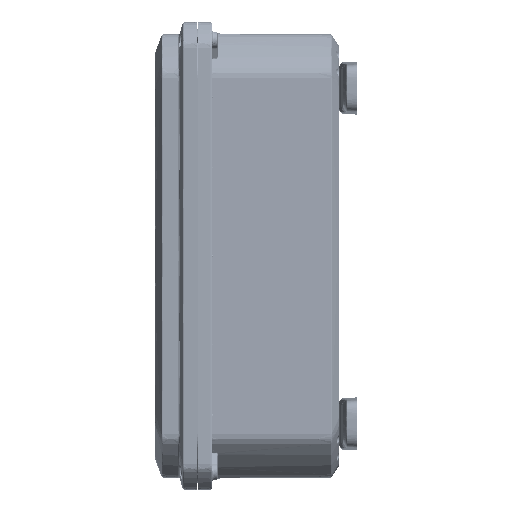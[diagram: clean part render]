
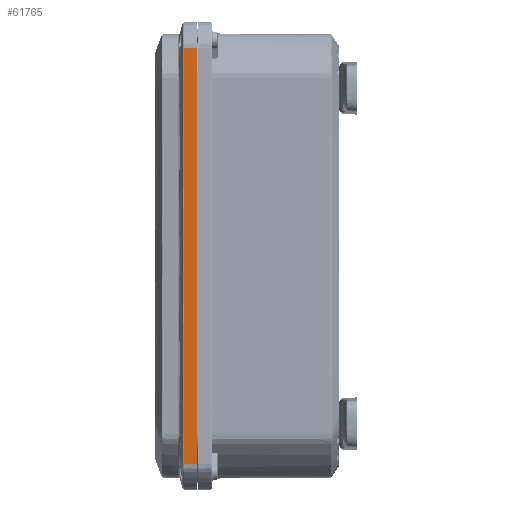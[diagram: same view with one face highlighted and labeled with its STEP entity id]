
A CAD part, left-side view. The second image highlights one B-rep face of the part: STEP entity #61765.
In plain terms, the highlighted planar face has unit normal (-0.999, 0.035, 0).
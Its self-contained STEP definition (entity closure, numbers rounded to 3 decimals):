
#1737 = DIRECTION ( 'NONE',  ( -0.035, -0.999, 0. ) ) ;
#7140 = LINE ( 'NONE', #79849, #176576 ) ;
#7347 = CARTESIAN_POINT ( 'NONE',  ( -7.607, 0.363, -5.829 ) ) ;
#7960 = VERTEX_POINT ( 'NONE', #240516 ) ;
#9487 = CARTESIAN_POINT ( 'NONE',  ( -7.607, 0.363, 5.875 ) ) ;
#13071 = VERTEX_POINT ( 'NONE', #98964 ) ;
#13111 = VERTEX_POINT ( 'NONE', #49965 ) ;
#15564 = PLANE ( 'NONE',  #87114 ) ;
#23934 = ORIENTED_EDGE ( 'NONE', *, *, #143241, .T. ) ;
#26132 = CARTESIAN_POINT ( 'NONE',  ( -7.607, 0.363, -5.031 ) ) ;
#28303 = CARTESIAN_POINT ( 'NONE',  ( -7.607, 0.363, 0.982 ) ) ;
#28741 = VERTEX_POINT ( 'NONE', #126057 ) ;
#40379 = B_SPLINE_CURVE_WITH_KNOTS ( 'NONE', 3,
 ( #161023, #9487, #215040, #218750, #42145, #118540, #85864, #47079, #162269, #102182, #199921, #28303, #60978 ),
 .UNSPECIFIED., .F., .F.,
 ( 4, 2, 1, 1, 1, 1, 1, 2, 4 ),
 ( 0., 0.001, 0.002, 0.005, 0.009, 0.019, 0.037, 0.075, 0.15 ),
 .UNSPECIFIED. ) ;
#40661 = CARTESIAN_POINT ( 'NONE',  ( -7.62, 0., -5.89 ) ) ;
#42145 = CARTESIAN_POINT ( 'NONE',  ( -7.607, 0.363, 5.783 ) ) ;
#43981 = ORIENTED_EDGE ( 'NONE', *, *, #47157, .F. ) ;
#44927 = CARTESIAN_POINT ( 'NONE',  ( -7.607, 0.363, -5.783 ) ) ;
#46162 = CARTESIAN_POINT ( 'NONE',  ( -7.607, 0.363, 0. ) ) ;
#47079 = CARTESIAN_POINT ( 'NONE',  ( -7.607, 0.363, 5.031 ) ) ;
#47157 = EDGE_CURVE ( 'NONE', #81160, #7960, #7140, .T. ) ;
#49965 = CARTESIAN_POINT ( 'NONE',  ( -7.62, 0., -5.89 ) ) ;
#60978 = CARTESIAN_POINT ( 'NONE',  ( -7.607, 0.363, 0. ) ) ;
#61765 = ADVANCED_FACE ( 'NONE', ( #208466 ), #15564, .T. ) ;
#71138 = LINE ( 'NONE', #241569, #224199 ) ;
#76883 = CARTESIAN_POINT ( 'NONE',  ( -7.62, 0., -5.89 ) ) ;
#77864 = ORIENTED_EDGE ( 'NONE', *, *, #216089, .T. ) ;
#79849 = CARTESIAN_POINT ( 'NONE',  ( -7.62, 0., 5.89 ) ) ;
#80281 = ORIENTED_EDGE ( 'NONE', *, *, #229143, .T. ) ;
#81160 = VERTEX_POINT ( 'NONE', #154258 ) ;
#83734 = CARTESIAN_POINT ( 'NONE',  ( -7.607, 0.363, -5.86 ) ) ;
#85864 = CARTESIAN_POINT ( 'NONE',  ( -7.607, 0.363, 5.461 ) ) ;
#87114 = AXIS2_PLACEMENT_3D ( 'NONE', #76883, #227276, #1737 ) ;
#98627 = DIRECTION ( 'NONE',  ( -0.035, -0.999, 0. ) ) ;
#98964 = CARTESIAN_POINT ( 'NONE',  ( -7.607, 0.363, 0. ) ) ;
#100723 = DIRECTION ( 'NONE',  ( -0.035, -0.999, 0. ) ) ;
#101272 = CARTESIAN_POINT ( 'NONE',  ( -7.607, 0.363, -1.963 ) ) ;
#102182 = CARTESIAN_POINT ( 'NONE',  ( -7.607, 0.363, 3.436 ) ) ;
#108638 = DIRECTION ( 'NONE',  ( 0., 0., 1. ) ) ;
#118540 = CARTESIAN_POINT ( 'NONE',  ( -7.607, 0.363, 5.676 ) ) ;
#121285 = CARTESIAN_POINT ( 'NONE',  ( -7.607, 0.363, -4.663 ) ) ;
#122520 = CARTESIAN_POINT ( 'NONE',  ( -7.607, 0.363, -3.436 ) ) ;
#126057 = CARTESIAN_POINT ( 'NONE',  ( -7.607, 0.363, -5.89 ) ) ;
#143241 = EDGE_CURVE ( 'NONE', #81160, #13071, #40379, .T. ) ;
#154258 = CARTESIAN_POINT ( 'NONE',  ( -7.607, 0.363, 5.89 ) ) ;
#155219 = B_SPLINE_CURVE_WITH_KNOTS ( 'NONE', 3,
 ( #46162, #158880, #101272, #122520, #235413, #121285, #26132, #177704, #216592, #44927, #7347, #83734, #198995, #160106 ),
 .UNSPECIFIED., .F., .F.,
 ( 4, 2, 2, 1, 1, 1, 1, 2, 4 ),
 ( 0., 0.075, 0.112, 0.131, 0.14, 0.145, 0.147, 0.148, 0.15 ),
 .UNSPECIFIED. ) ;
#158880 = CARTESIAN_POINT ( 'NONE',  ( -7.607, 0.363, -0.982 ) ) ;
#160106 = CARTESIAN_POINT ( 'NONE',  ( -7.607, 0.363, -5.89 ) ) ;
#161023 = CARTESIAN_POINT ( 'NONE',  ( -7.607, 0.363, 5.89 ) ) ;
#162269 = CARTESIAN_POINT ( 'NONE',  ( -7.607, 0.363, 4.172 ) ) ;
#172290 = VECTOR ( 'NONE', #100723, 39.37 ) ;
#176576 = VECTOR ( 'NONE', #98627, 39.37 ) ;
#177704 = CARTESIAN_POINT ( 'NONE',  ( -7.607, 0.363, -5.461 ) ) ;
#182590 = EDGE_LOOP ( 'NONE', ( #23934, #183983, #80281, #77864, #43981 ) ) ;
#183983 = ORIENTED_EDGE ( 'NONE', *, *, #220738, .T. ) ;
#198995 = CARTESIAN_POINT ( 'NONE',  ( -7.607, 0.363, -5.875 ) ) ;
#199921 = CARTESIAN_POINT ( 'NONE',  ( -7.607, 0.363, 1.963 ) ) ;
#208466 = FACE_OUTER_BOUND ( 'NONE', #182590, .T. ) ;
#214799 = LINE ( 'NONE', #40661, #172290 ) ;
#215040 = CARTESIAN_POINT ( 'NONE',  ( -7.607, 0.363, 5.86 ) ) ;
#216089 = EDGE_CURVE ( 'NONE', #13111, #7960, #71138, .T. ) ;
#216592 = CARTESIAN_POINT ( 'NONE',  ( -7.607, 0.363, -5.676 ) ) ;
#218750 = CARTESIAN_POINT ( 'NONE',  ( -7.607, 0.363, 5.829 ) ) ;
#220738 = EDGE_CURVE ( 'NONE', #13071, #28741, #155219, .T. ) ;
#224199 = VECTOR ( 'NONE', #108638, 39.37 ) ;
#227276 = DIRECTION ( 'NONE',  ( -0.999, 0.035, 0. ) ) ;
#229143 = EDGE_CURVE ( 'NONE', #28741, #13111, #214799, .T. ) ;
#235413 = CARTESIAN_POINT ( 'NONE',  ( -7.607, 0.363, -3.927 ) ) ;
#240516 = CARTESIAN_POINT ( 'NONE',  ( -7.62, 0., 5.89 ) ) ;
#241569 = CARTESIAN_POINT ( 'NONE',  ( -7.62, 0., -5.89 ) ) ;
